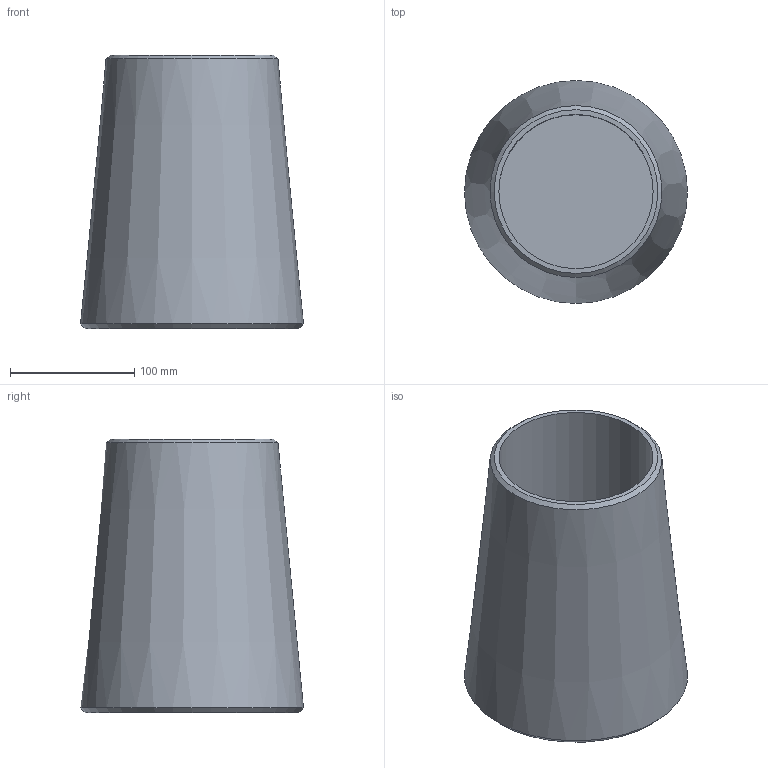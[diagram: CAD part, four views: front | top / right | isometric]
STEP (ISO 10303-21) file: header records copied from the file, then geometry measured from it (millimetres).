
FILE_DESCRIPTION(/* description */ (''),/* implementation_level */ '2;1');
FILE_NAME(/* name */ 'C:\Vault_WS\Designs\SB\01-PX\Verzinkt\ZSS\520 - Kontermutter\520-120-KMU.stp',/* time_stamp */ '2020-06-18T12:39:21+02:00',/* author */ ('schwarz'),/* organization */ (''),/* preprocessor_version */ 'ST-DEVELOPER v16.1',/* originating_system */ 'Autodesk Inventor 2016',/* authorisation */ '');
FILE_SCHEMA (('AUTOMOTIVE_DESIGN { 1 0 10303 214 3 1 1 }'));
Length unit declared in the file: millimetre
Products named in the file (1): Kontermutter 520 120 Kunde
Bounding box: 179.23 x 179.23 x 220 mm (x, y, z)
Volume: 2445460.8 mm3; surface area: 210740 mm2
Topology: 1 solids, 1 shells, 7 faces, 10 edges, 6 vertices
Faces by surface type: cone 3, plane 3, cylinder 1
Full cylindrical faces by diameter (mm): 124 x1
Entity records: 158 total; most frequent: DIRECTION 28, CARTESIAN_POINT 20, AXIS2_PLACEMENT_3D 14, EDGE_LOOP 12, ORIENTED_EDGE 12, FACE_OUTER_BOUND 7, ADVANCED_FACE 7, CIRCLE 6
